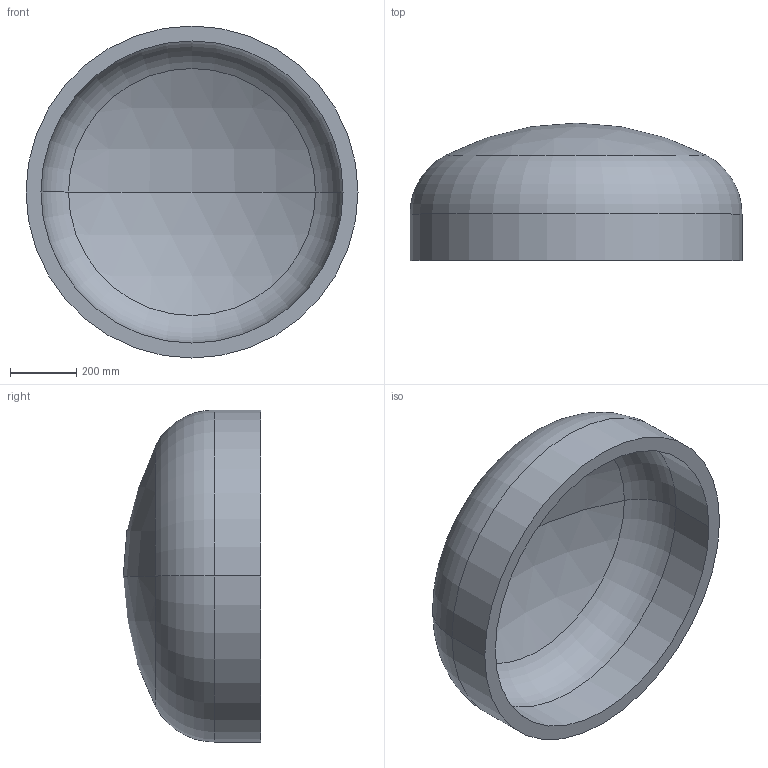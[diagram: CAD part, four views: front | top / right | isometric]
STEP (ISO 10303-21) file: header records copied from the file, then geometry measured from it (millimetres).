
FILE_DESCRIPTION (( 'STEP AP203' ), '1' );
FILE_NAME ('DIN 28013 Korbbogenform_-_Boden DIN 28013 - 1000 x 140 - I - s=45.step', '2016-07-01T08:49:43', ( '' ), ( '' ), 'SwSTEP 2.0', 'SolidWorks 2013', '' );
FILE_SCHEMA (( 'CONFIG_CONTROL_DESIGN' ));
Length unit declared in the file: millimetre
Products named in the file (1): DIN 28013 Korbbogenform_-_Boden DIN 28013 - 1000 x 140 - I - s=45
Bounding box: 1000 x 414.01 x 1000 mm (x, y, z)
Volume: 65150657.1 mm3; surface area: 3034835.2 mm2
Topology: 1 solids, 1 shells, 13 faces, 24 edges, 14 vertices
Faces by surface type: torus 4, cylinder 4, sphere 4, plane 1
Entity records: 407 total; most frequent: DIRECTION 72, CARTESIAN_POINT 52, ORIENTED_EDGE 48, AXIS2_PLACEMENT_3D 34, EDGE_CURVE 24, CIRCLE 20, VERTEX_POINT 14, EDGE_LOOP 14
